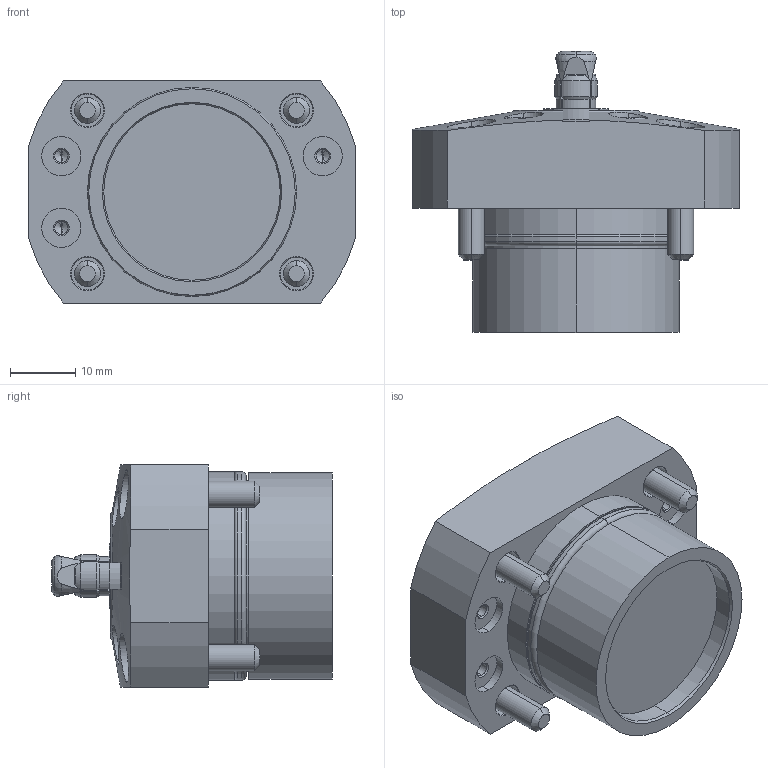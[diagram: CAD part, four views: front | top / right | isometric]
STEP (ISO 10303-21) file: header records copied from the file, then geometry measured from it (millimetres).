
FILE_DESCRIPTION (( 'STEP AP203' ), '1' );
FILE_NAME ('SFH1070.STEP', '2010-11-01T23:24:28', ( ' ' ), ( ' ' ), 'SwSTEP 2.0', 'SolidWorks 2010', '' );
FILE_SCHEMA (( 'CONFIG_CONTROL_DESIGN' ));
Length unit declared in the file: millimetre
Products named in the file (7): SFH1070; 6妏寠晅无倌_M3_10; 6妏寠晅无倌_M4_16; SFH1070_套菁轤礁诎蔬晅; SFH1_钾堇轤O剌皋晅; φ7_ｽﾘｰﾌﾞ; 冇7_郫霓
Assembly tree (12 placements, depth 2):
  SFH1070
    SFH1_钾堇轤O剌皋晅
    6妏寠晅无倌_M4_16  x4
    φ7_ｽﾘｰﾌﾞ
    SFH1070_套菁轤礁诎蔬晅
    6妏寠晅无倌_M3_10  x4
    冇7_郫霓
Bounding box: 50 x 43 x 34 mm (x, y, z)
Volume: 34547 mm3; surface area: 15360 mm2
Topology: 16 solids, 16 shells, 486 faces, 995 edges, 552 vertices
Faces by surface type: plane 191, cone 156, cylinder 122, torus 17
Entity records: 9885 total; most frequent: CARTESIAN_POINT 2322, DIRECTION 1478, ORIENTED_EDGE 1318, EDGE_CURVE 659, AXIS2_PLACEMENT_3D 610, VERTEX_POINT 402, EDGE_LOOP 341, ADVANCED_FACE 300
